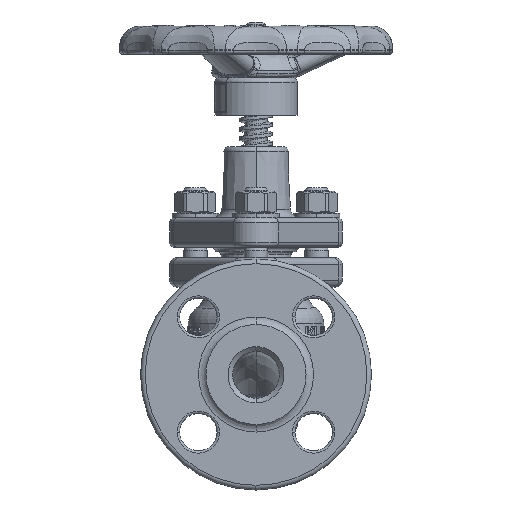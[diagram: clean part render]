
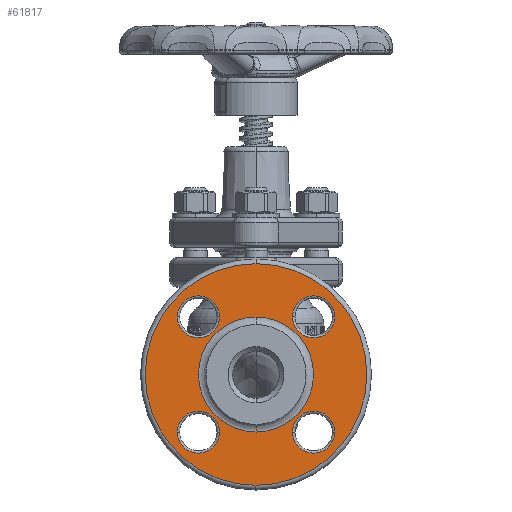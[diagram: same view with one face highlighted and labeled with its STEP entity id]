
A CAD part, left-side view. The second image highlights one B-rep face of the part: STEP entity #61817.
In plain terms, the highlighted planar face has unit normal (-1, 0, 0).
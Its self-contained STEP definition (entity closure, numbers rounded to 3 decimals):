
#11727=CARTESIAN_POINT('',(-56.9,0.,0.));
#11728=DIRECTION('',(-1.,0.,0.));
#11729=DIRECTION('',(0.,0.,1.));
#11730=AXIS2_PLACEMENT_3D('',#11727,#11728,#11729);
#11732=CARTESIAN_POINT('',(-56.9,0.,0.));
#11733=DIRECTION('',(-1.,0.,0.));
#11734=DIRECTION('',(0.,0.,-1.));
#11735=AXIS2_PLACEMENT_3D('',#11732,#11733,#11734);
#11737=CARTESIAN_POINT('',(-56.9,-24.713,24.713));
#11738=DIRECTION('',(1.,0.,0.));
#11739=DIRECTION('',(0.,-1.,0.));
#11740=AXIS2_PLACEMENT_3D('',#11737,#11738,#11739);
#11742=CARTESIAN_POINT('',(-56.9,-24.713,24.713));
#11743=DIRECTION('',(1.,0.,0.));
#11744=DIRECTION('',(0.,1.,0.));
#11745=AXIS2_PLACEMENT_3D('',#11742,#11743,#11744);
#11747=CARTESIAN_POINT('',(-56.9,24.713,-24.713));
#11748=DIRECTION('',(1.,0.,0.));
#11749=DIRECTION('',(0.,1.,0.));
#11750=AXIS2_PLACEMENT_3D('',#11747,#11748,#11749);
#11752=CARTESIAN_POINT('',(-56.9,24.713,-24.713));
#11753=DIRECTION('',(1.,0.,0.));
#11754=DIRECTION('',(0.,-1.,0.));
#11755=AXIS2_PLACEMENT_3D('',#11752,#11753,#11754);
#11757=CARTESIAN_POINT('',(-56.9,24.713,24.713));
#11758=DIRECTION('',(1.,0.,0.));
#11759=DIRECTION('',(0.,1.,0.));
#11760=AXIS2_PLACEMENT_3D('',#11757,#11758,#11759);
#11762=CARTESIAN_POINT('',(-56.9,24.713,24.713));
#11763=DIRECTION('',(1.,0.,0.));
#11764=DIRECTION('',(0.,-1.,0.));
#11765=AXIS2_PLACEMENT_3D('',#11762,#11763,#11764);
#11767=CARTESIAN_POINT('',(-56.9,-24.713,-24.713));
#11768=DIRECTION('',(1.,0.,0.));
#11769=DIRECTION('',(0.,1.,0.));
#11770=AXIS2_PLACEMENT_3D('',#11767,#11768,#11769);
#11772=CARTESIAN_POINT('',(-56.9,-24.713,-24.713));
#11773=DIRECTION('',(1.,0.,0.));
#11774=DIRECTION('',(0.,-1.,0.));
#11775=AXIS2_PLACEMENT_3D('',#11772,#11773,#11774);
#11787=CARTESIAN_POINT('',(-56.9,0.,0.));
#11788=DIRECTION('',(-1.,0.,0.));
#11789=DIRECTION('',(0.,0.,1.));
#11790=AXIS2_PLACEMENT_3D('',#11787,#11788,#11789);
#11940=CARTESIAN_POINT('',(-56.9,0.,0.));
#11941=DIRECTION('',(1.,0.,0.));
#11942=DIRECTION('',(0.,0.,1.));
#11943=AXIS2_PLACEMENT_3D('',#11940,#11941,#11942);
#32952=CARTESIAN_POINT('',(-56.9,0.,24.65));
#32953=CARTESIAN_POINT('',(-56.9,0.,-24.65));
#32954=VERTEX_POINT('',#32952);
#32955=VERTEX_POINT('',#32953);
#32960=CARTESIAN_POINT('',(-56.9,0.,47.5));
#32961=CARTESIAN_POINT('',(-56.9,0.,-47.5));
#32962=VERTEX_POINT('',#32960);
#32963=VERTEX_POINT('',#32961);
#32976=CARTESIAN_POINT('',(-56.9,-33.713,24.713));
#32977=CARTESIAN_POINT('',(-56.9,-15.713,24.713));
#32978=VERTEX_POINT('',#32976);
#32979=VERTEX_POINT('',#32977);
#32984=CARTESIAN_POINT('',(-56.9,33.713,-24.713));
#32985=CARTESIAN_POINT('',(-56.9,15.713,-24.713));
#32986=VERTEX_POINT('',#32984);
#32987=VERTEX_POINT('',#32985);
#32992=CARTESIAN_POINT('',(-56.9,33.713,24.713));
#32993=CARTESIAN_POINT('',(-56.9,15.713,24.713));
#32994=VERTEX_POINT('',#32992);
#32995=VERTEX_POINT('',#32993);
#33000=CARTESIAN_POINT('',(-56.9,-15.713,-24.713));
#33001=CARTESIAN_POINT('',(-56.9,-33.713,-24.713));
#33002=VERTEX_POINT('',#33000);
#33003=VERTEX_POINT('',#33001);
#61777=CARTESIAN_POINT('',(-56.9,0.,0.));
#61778=DIRECTION('',(-1.,0.,0.));
#61779=DIRECTION('',(0.,0.,1.));
#61780=AXIS2_PLACEMENT_3D('',#61777,#61778,#61779);
#61781=PLANE('',#61780);
#61783=ORIENTED_EDGE('',*,*,#61782,.F.);
#61784=ORIENTED_EDGE('',*,*,#61767,.F.);
#61785=EDGE_LOOP('',(#61783,#61784));
#61786=FACE_OUTER_BOUND('',#61785,.F.);
#61788=ORIENTED_EDGE('',*,*,#61787,.T.);
#61790=ORIENTED_EDGE('',*,*,#61789,.F.);
#61791=EDGE_LOOP('',(#61788,#61790));
#61792=FACE_BOUND('',#61791,.F.);
#61794=ORIENTED_EDGE('',*,*,#61793,.F.);
#61796=ORIENTED_EDGE('',*,*,#61795,.F.);
#61797=EDGE_LOOP('',(#61794,#61796));
#61798=FACE_BOUND('',#61797,.F.);
#61800=ORIENTED_EDGE('',*,*,#61799,.F.);
#61802=ORIENTED_EDGE('',*,*,#61801,.F.);
#61803=EDGE_LOOP('',(#61800,#61802));
#61804=FACE_BOUND('',#61803,.F.);
#61806=ORIENTED_EDGE('',*,*,#61805,.F.);
#61808=ORIENTED_EDGE('',*,*,#61807,.F.);
#61809=EDGE_LOOP('',(#61806,#61808));
#61810=FACE_BOUND('',#61809,.F.);
#61812=ORIENTED_EDGE('',*,*,#61811,.F.);
#61814=ORIENTED_EDGE('',*,*,#61813,.F.);
#61815=EDGE_LOOP('',(#61812,#61814));
#61816=FACE_BOUND('',#61815,.F.);
#61817=ADVANCED_FACE('',(#61786,#61792,#61798,#61804,#61810,#61816),#61781,.T.);
#11731=CIRCLE('',#11730,47.5);
#11736=CIRCLE('',#11735,47.5);
#11741=CIRCLE('',#11740,9.);
#11746=CIRCLE('',#11745,9.);
#11751=CIRCLE('',#11750,9.);
#11756=CIRCLE('',#11755,9.);
#11761=CIRCLE('',#11760,9.);
#11766=CIRCLE('',#11765,9.);
#11771=CIRCLE('',#11770,9.);
#11776=CIRCLE('',#11775,9.);
#11791=CIRCLE('',#11790,24.65);
#11944=CIRCLE('',#11943,24.65);
#61767=EDGE_CURVE('',#32963,#32962,#11736,.T.);
#61782=EDGE_CURVE('',#32962,#32963,#11731,.T.);
#61787=EDGE_CURVE('',#32954,#32955,#11791,.T.);
#61789=EDGE_CURVE('',#32954,#32955,#11944,.T.);
#61793=EDGE_CURVE('',#32978,#32979,#11741,.T.);
#61795=EDGE_CURVE('',#32979,#32978,#11746,.T.);
#61799=EDGE_CURVE('',#32986,#32987,#11751,.T.);
#61801=EDGE_CURVE('',#32987,#32986,#11756,.T.);
#61805=EDGE_CURVE('',#32994,#32995,#11761,.T.);
#61807=EDGE_CURVE('',#32995,#32994,#11766,.T.);
#61811=EDGE_CURVE('',#33002,#33003,#11771,.T.);
#61813=EDGE_CURVE('',#33003,#33002,#11776,.T.);
